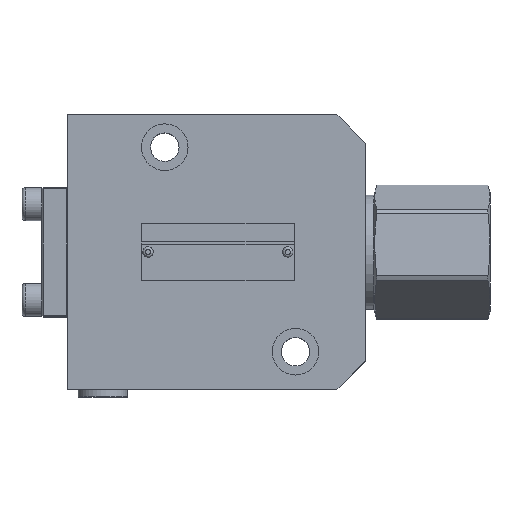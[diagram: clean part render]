
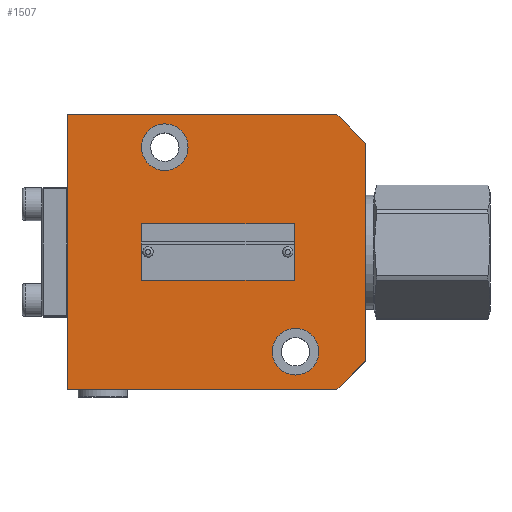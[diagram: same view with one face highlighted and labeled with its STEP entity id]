
A CAD part, top view. The second image highlights one B-rep face of the part: STEP entity #1507.
In plain terms, the highlighted planar face has unit normal (0, 0, 1).
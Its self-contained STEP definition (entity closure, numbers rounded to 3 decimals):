
#1507=ADVANCED_FACE('',(#2314,#2315,#2316,#2317,#2318),#1887,.T.);
#1887=PLANE('',#6819);
#2114=CIRCLE('',#6815,0.9);
#2115=CIRCLE('',#6816,0.9);
#2116=CIRCLE('',#6817,9.);
#2117=CIRCLE('',#6818,9.);
#2314=FACE_BOUND('',#2584,.T.);
#2315=FACE_BOUND('',#2585,.T.);
#2316=FACE_BOUND('',#2586,.T.);
#2317=FACE_BOUND('',#2587,.T.);
#2318=FACE_BOUND('',#2588,.T.);
#2584=EDGE_LOOP('',(#3218));
#2585=EDGE_LOOP('',(#3219));
#2586=EDGE_LOOP('',(#3220));
#2587=EDGE_LOOP('',(#3221));
#2588=EDGE_LOOP('',(#3222,#3223,#3224,#3225,#3226,#3227));
#3218=ORIENTED_EDGE('',*,*,#5304,.T.);
#3219=ORIENTED_EDGE('',*,*,#5305,.T.);
#3220=ORIENTED_EDGE('',*,*,#5306,.F.);
#3221=ORIENTED_EDGE('',*,*,#5307,.F.);
#3222=ORIENTED_EDGE('',*,*,#5279,.F.);
#3223=ORIENTED_EDGE('',*,*,#5303,.F.);
#3224=ORIENTED_EDGE('',*,*,#5296,.F.);
#3225=ORIENTED_EDGE('',*,*,#5293,.F.);
#3226=ORIENTED_EDGE('',*,*,#5289,.F.);
#3227=ORIENTED_EDGE('',*,*,#5286,.F.);
#4724=VERTEX_POINT('',#10217);
#4725=VERTEX_POINT('',#10219);
#4731=VERTEX_POINT('',#10233);
#4733=VERTEX_POINT('',#10239);
#4736=VERTEX_POINT('',#10247);
#4738=VERTEX_POINT('',#10253);
#4743=VERTEX_POINT('',#10268);
#4744=VERTEX_POINT('',#10270);
#4745=VERTEX_POINT('',#10272);
#4746=VERTEX_POINT('',#10274);
#5279=EDGE_CURVE('',#4724,#4725,#6006,.T.);
#5286=EDGE_CURVE('',#4725,#4731,#6009,.T.);
#5289=EDGE_CURVE('',#4731,#4733,#6012,.T.);
#5293=EDGE_CURVE('',#4733,#4736,#6015,.T.);
#5296=EDGE_CURVE('',#4736,#4738,#6018,.T.);
#5303=EDGE_CURVE('',#4738,#4724,#6021,.T.);
#5304=EDGE_CURVE('',#4743,#4743,#2114,.T.);
#5305=EDGE_CURVE('',#4744,#4744,#2115,.T.);
#5306=EDGE_CURVE('',#4745,#4745,#2116,.T.);
#5307=EDGE_CURVE('',#4746,#4746,#2117,.T.);
#6006=LINE('',#10218,#6386);
#6009=LINE('',#10232,#6389);
#6012=LINE('',#10238,#6392);
#6015=LINE('',#10246,#6395);
#6018=LINE('',#10252,#6398);
#6021=LINE('',#10265,#6401);
#6386=VECTOR('',#7431,1.);
#6389=VECTOR('',#7444,1.);
#6392=VECTOR('',#7449,1.);
#6395=VECTOR('',#7456,1.);
#6398=VECTOR('',#7461,1.);
#6401=VECTOR('',#7474,1.);
#6815=AXIS2_PLACEMENT_3D('',#10267,#7477,#7478);
#6816=AXIS2_PLACEMENT_3D('',#10269,#7479,#7480);
#6817=AXIS2_PLACEMENT_3D('',#10271,#7481,#7482);
#6818=AXIS2_PLACEMENT_3D('',#10273,#7483,#7484);
#6819=AXIS2_PLACEMENT_3D('',#10275,#7485,#7486);
#7431=DIRECTION('',(0.,1.,0.));
#7444=DIRECTION('',(1.,0.,0.));
#7449=DIRECTION('',(0.707,-0.707,0.));
#7456=DIRECTION('',(0.,-1.,0.));
#7461=DIRECTION('',(-0.707,-0.707,0.));
#7474=DIRECTION('',(-1.,0.,0.));
#7477=DIRECTION('',(0.,0.,-1.));
#7478=DIRECTION('',(-1.,0.,0.));
#7479=DIRECTION('',(0.,0.,-1.));
#7480=DIRECTION('',(-1.,0.,0.));
#7481=DIRECTION('',(0.,0.,1.));
#7482=DIRECTION('',(1.,0.,0.));
#7483=DIRECTION('',(0.,0.,1.));
#7484=DIRECTION('',(1.,0.,0.));
#7485=DIRECTION('',(0.,0.,1.));
#7486=DIRECTION('',(-1.,0.,0.));
#10217=CARTESIAN_POINT('',(279.731,125.834,22.04));
#10218=CARTESIAN_POINT('',(279.731,125.834,22.04));
#10219=CARTESIAN_POINT('',(279.731,231.834,22.04));
#10232=CARTESIAN_POINT('',(279.731,231.834,22.04));
#10233=CARTESIAN_POINT('',(383.731,231.834,22.04));
#10238=CARTESIAN_POINT('',(383.731,231.834,22.04));
#10239=CARTESIAN_POINT('',(394.731,220.834,22.04));
#10246=CARTESIAN_POINT('',(394.731,220.834,22.04));
#10247=CARTESIAN_POINT('',(394.731,136.834,22.04));
#10252=CARTESIAN_POINT('',(394.731,136.834,22.04));
#10253=CARTESIAN_POINT('',(383.731,125.834,22.04));
#10265=CARTESIAN_POINT('',(383.731,125.834,22.04));
#10267=CARTESIAN_POINT('',(364.731,178.834,22.04));
#10268=CARTESIAN_POINT('',(363.831,178.834,22.04));
#10269=CARTESIAN_POINT('',(310.731,178.834,22.04));
#10270=CARTESIAN_POINT('',(309.831,178.834,22.04));
#10271=CARTESIAN_POINT('',(317.231,219.334,22.04));
#10272=CARTESIAN_POINT('',(326.231,219.334,22.04));
#10273=CARTESIAN_POINT('',(367.731,140.334,22.04));
#10274=CARTESIAN_POINT('',(376.731,140.334,22.04));
#10275=CARTESIAN_POINT('',(367.731,140.334,22.04));
